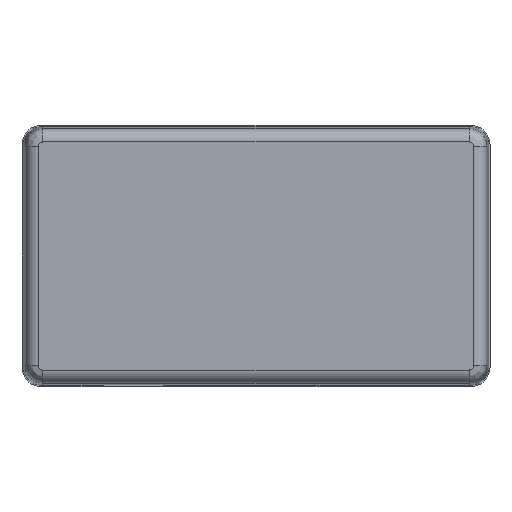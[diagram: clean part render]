
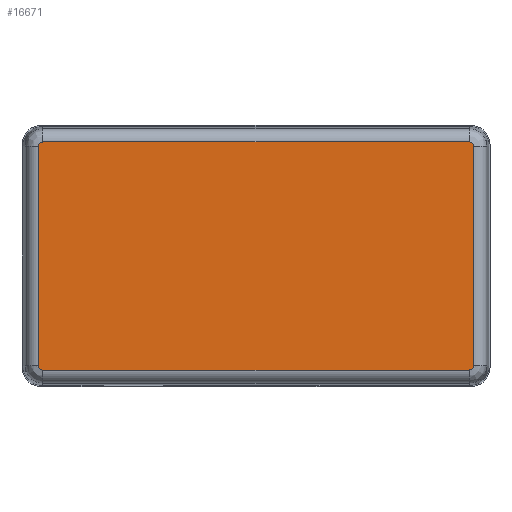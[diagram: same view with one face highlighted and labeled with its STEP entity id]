
A CAD part, front view. The second image highlights one B-rep face of the part: STEP entity #16671.
In plain terms, the highlighted planar face has unit normal (0, -1, 0).
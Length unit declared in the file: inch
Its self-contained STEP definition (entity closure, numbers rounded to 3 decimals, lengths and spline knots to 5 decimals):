
#1379 = CARTESIAN_POINT ( 'NONE',  ( -2.08449, -1., 1.10109 ) ) ;
#1723 = DIRECTION ( 'NONE',  ( 0., 0., 1. ) ) ;
#1760 = EDGE_LOOP ( 'NONE', ( #10305, #11091, #5758, #4280, #19011, #3542, #7113, #13030 ) ) ;
#2254 = EDGE_CURVE ( 'NONE', #7412, #2353, #13809, .T. ) ;
#2353 = VERTEX_POINT ( 'NONE', #16755 ) ;
#2621 = CARTESIAN_POINT ( 'NONE',  ( 2.10109, -1., -1.06102 ) ) ;
#2658 = VECTOR ( 'NONE', #19274, 39.37008 ) ;
#3244 = AXIS2_PLACEMENT_3D ( 'NONE', #5391, #5277, #12972 ) ;
#3542 = ORIENTED_EDGE ( 'NONE', *, *, #17589, .F. ) ;
#4280 = ORIENTED_EDGE ( 'NONE', *, *, #15958, .F. ) ;
#4431 = CARTESIAN_POINT ( 'NONE',  ( 2.06102, -1., 1.10109 ) ) ;
#4558 = CARTESIAN_POINT ( 'NONE',  ( 2.10109, -1., 1.06102 ) ) ;
#4631 = EDGE_CURVE ( 'NONE', #13065, #18920, #16871, .T. ) ;
#4835 = DIRECTION ( 'NONE',  ( 0., 0., -1. ) ) ;
#5277 = DIRECTION ( 'NONE',  ( 0., 1., 0. ) ) ;
#5391 = CARTESIAN_POINT ( 'NONE',  ( -2.06102, -1., -1.06102 ) ) ;
#5394 = LINE ( 'NONE', #7527, #2658 ) ;
#5758 = ORIENTED_EDGE ( 'NONE', *, *, #10137, .F. ) ;
#6095 = VERTEX_POINT ( 'NONE', #14047 ) ;
#6130 = CARTESIAN_POINT ( 'NONE',  ( -2.10109, -1., -1.08449 ) ) ;
#6276 = VERTEX_POINT ( 'NONE', #15046 ) ;
#6623 = CARTESIAN_POINT ( 'NONE',  ( -2.10109, -1., -1.06102 ) ) ;
#7113 = ORIENTED_EDGE ( 'NONE', *, *, #16652, .F. ) ;
#7145 = FACE_OUTER_BOUND ( 'NONE', #1760, .T. ) ;
#7412 = VERTEX_POINT ( 'NONE', #7545 ) ;
#7527 = CARTESIAN_POINT ( 'NONE',  ( -2.06102, -1., -1.10109 ) ) ;
#7545 = CARTESIAN_POINT ( 'NONE',  ( 2.06102, -1., 1.10109 ) ) ;
#8724 = VERTEX_POINT ( 'NONE', #2621 ) ;
#9039 = CARTESIAN_POINT ( 'NONE',  ( -2.06102, -1., 1.10109 ) ) ;
#9455 = CARTESIAN_POINT ( 'NONE',  ( 2.08449, -1., -1.10109 ) ) ;
#9518 = CARTESIAN_POINT ( 'NONE',  ( -2.10109, -1., -1.06102 ) ) ;
#9780 = CARTESIAN_POINT ( 'NONE',  ( -2.10109, -1., 1.06102 ) ) ;
#10137 = EDGE_CURVE ( 'NONE', #8724, #6276, #18005, .T. ) ;
#10305 = ORIENTED_EDGE ( 'NONE', *, *, #11900, .F. ) ;
#10534 = DIRECTION ( 'NONE',  ( 1., 0., 0. ) ) ;
#10940 = CARTESIAN_POINT ( 'NONE',  ( -2.10109, -1., 1.08449 ) ) ;
#11091 = ORIENTED_EDGE ( 'NONE', *, *, #11157, .F. ) ;
#11157 = EDGE_CURVE ( 'NONE', #6276, #19324, #5394, .T. ) ;
#11900 = EDGE_CURVE ( 'NONE', #19324, #13065, #19635, .T. ) ;
#12117 = CARTESIAN_POINT ( 'NONE',  ( 2.08449, -1., 1.10109 ) ) ;
#12695 = VECTOR ( 'NONE', #1723, 39.37008 ) ;
#12787 = LINE ( 'NONE', #18461, #22131 ) ;
#12849 = CARTESIAN_POINT ( 'NONE',  ( -2.10109, -1., 1.06102 ) ) ;
#12972 = DIRECTION ( 'NONE',  ( 1., 0., 0. ) ) ;
#13030 = ORIENTED_EDGE ( 'NONE', *, *, #4631, .F. ) ;
#13065 = VERTEX_POINT ( 'NONE', #15154 ) ;
#13809 =( BOUNDED_CURVE ( )  B_SPLINE_CURVE ( 3, ( #4431, #12117, #17923, #4558 ),
 .UNSPECIFIED., .F., .F. ) 
 B_SPLINE_CURVE_WITH_KNOTS ( ( 4, 4 ),
 ( 0., 1. ),
 .UNSPECIFIED. ) 
 CURVE ( )  GEOMETRIC_REPRESENTATION_ITEM ( )  RATIONAL_B_SPLINE_CURVE ( ( 1., 0.805, 0.805, 1. ) ) 
 REPRESENTATION_ITEM ( '' )  );
#14047 = CARTESIAN_POINT ( 'NONE',  ( -2.06102, -1., 1.10109 ) ) ;
#14102 = CARTESIAN_POINT ( 'NONE',  ( -2.06102, -1., -1.10109 ) ) ;
#14877 = PLANE ( 'NONE',  #3244 ) ;
#15046 = CARTESIAN_POINT ( 'NONE',  ( 2.06102, -1., -1.10109 ) ) ;
#15154 = CARTESIAN_POINT ( 'NONE',  ( -2.10109, -1., -1.06102 ) ) ;
#15582 =( BOUNDED_CURVE ( )  B_SPLINE_CURVE ( 3, ( #12849, #10940, #1379, #9039 ),
 .UNSPECIFIED., .F., .F. ) 
 B_SPLINE_CURVE_WITH_KNOTS ( ( 4, 4 ),
 ( 0., 1. ),
 .UNSPECIFIED. ) 
 CURVE ( )  GEOMETRIC_REPRESENTATION_ITEM ( )  RATIONAL_B_SPLINE_CURVE ( ( 1., 0.805, 0.805, 1. ) ) 
 REPRESENTATION_ITEM ( '' )  );
#15958 = EDGE_CURVE ( 'NONE', #2353, #8724, #12787, .T. ) ;
#15997 = LINE ( 'NONE', #23681, #23443 ) ;
#16652 = EDGE_CURVE ( 'NONE', #18920, #6095, #15582, .T. ) ;
#16671 = ADVANCED_FACE ( 'NONE', ( #7145 ), #14877, .F. ) ;
#16755 = CARTESIAN_POINT ( 'NONE',  ( 2.10109, -1., 1.06102 ) ) ;
#16871 = LINE ( 'NONE', #9518, #12695 ) ;
#17589 = EDGE_CURVE ( 'NONE', #6095, #7412, #15997, .T. ) ;
#17923 = CARTESIAN_POINT ( 'NONE',  ( 2.10109, -1., 1.08449 ) ) ;
#18005 =( BOUNDED_CURVE ( )  B_SPLINE_CURVE ( 3, ( #20726, #24829, #9455, #23101 ),
 .UNSPECIFIED., .F., .F. ) 
 B_SPLINE_CURVE_WITH_KNOTS ( ( 4, 4 ),
 ( 0., 1. ),
 .UNSPECIFIED. ) 
 CURVE ( )  GEOMETRIC_REPRESENTATION_ITEM ( )  RATIONAL_B_SPLINE_CURVE ( ( 1., 0.805, 0.805, 1. ) ) 
 REPRESENTATION_ITEM ( '' )  );
#18461 = CARTESIAN_POINT ( 'NONE',  ( 2.10109, -1., -1.06102 ) ) ;
#18920 = VERTEX_POINT ( 'NONE', #9780 ) ;
#19011 = ORIENTED_EDGE ( 'NONE', *, *, #2254, .F. ) ;
#19274 = DIRECTION ( 'NONE',  ( -1., 0., 0. ) ) ;
#19324 = VERTEX_POINT ( 'NONE', #24100 ) ;
#19635 =( BOUNDED_CURVE ( )  B_SPLINE_CURVE ( 3, ( #14102, #23561, #6130, #6623 ),
 .UNSPECIFIED., .F., .F. ) 
 B_SPLINE_CURVE_WITH_KNOTS ( ( 4, 4 ),
 ( 0., 1. ),
 .UNSPECIFIED. ) 
 CURVE ( )  GEOMETRIC_REPRESENTATION_ITEM ( )  RATIONAL_B_SPLINE_CURVE ( ( 1., 0.805, 0.805, 1. ) ) 
 REPRESENTATION_ITEM ( '' )  );
#20726 = CARTESIAN_POINT ( 'NONE',  ( 2.10109, -1., -1.06102 ) ) ;
#22131 = VECTOR ( 'NONE', #4835, 39.37008 ) ;
#23101 = CARTESIAN_POINT ( 'NONE',  ( 2.06102, -1., -1.10109 ) ) ;
#23443 = VECTOR ( 'NONE', #10534, 39.37008 ) ;
#23561 = CARTESIAN_POINT ( 'NONE',  ( -2.08449, -1., -1.10109 ) ) ;
#23681 = CARTESIAN_POINT ( 'NONE',  ( -2.06102, -1., 1.10109 ) ) ;
#24100 = CARTESIAN_POINT ( 'NONE',  ( -2.06102, -1., -1.10109 ) ) ;
#24829 = CARTESIAN_POINT ( 'NONE',  ( 2.10109, -1., -1.08449 ) ) ;
